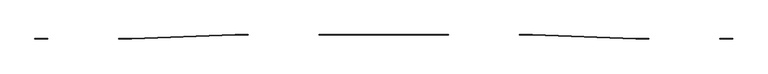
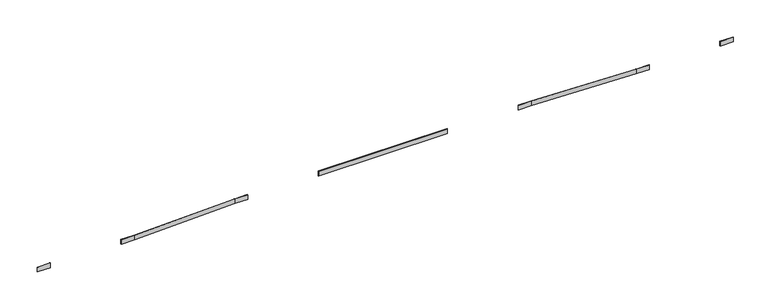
"""IFC4 building model written with IfcOpenShell, lengths in millimetres: proxy geometry, CapBWFillerFront.sat."""

from ifc_helpers import new_model, si_unit, frame, origin, place, context, project, spatial, polyline, outline, extrude, source, transform, mapped, element, save


def generic_models_699fb4ed(model_context):
    return source(origin(), model_context, "Body", "SweptSolid", [
        extrude(outline(polyline([(-3962.5190207, 6.35), (-2336.9190207, 67.31), (-2133.6, 67.31), (-2133.6, 60.96), (-2336.8, 60.96), (-3962.4, 0.0), (-4165.6, 0.0), (-4165.6, 6.35), (-3962.5190207, 6.35)])), frame((0.0, 0.0, -76.2), z_axis=(0.0, 0.0, 1.0), x_axis=(1.0, 0.0, 0.0)), (0.0, 0.0, 1.0), 76.2),
        extrude(outline(polyline([(2336.9190207, 67.31), (3962.5190207, 6.35), (4165.6, 6.35), (4165.6, 0.0), (3962.4, 0.0), (2336.8, 60.96), (2133.6, 60.96), (2133.6, 67.31), (2336.9190207, 67.31)])), frame((0.0, 0.0, -76.2), z_axis=(0.0, 0.0, 1.0), x_axis=(1.0, 0.0, 0.0)), (0.0, 0.0, 1.0), 76.2),
        extrude(outline(polyline([(5283.2, 6.35), (5486.4, 6.35), (5486.4, 0.0), (5283.2, 0.0), (5283.2, 6.35)])), frame((0.0, 0.0, -76.2), z_axis=(0.0, 0.0, 1.0), x_axis=(1.0, 0.0, 0.0)), (0.0, 0.0, 1.0), 76.2),
        extrude(outline(polyline([(-5486.4, 0.0), (-5486.4, 6.35), (-5283.2, 6.35), (-5283.2, 0.0), (-5486.4, 0.0)])), frame((0.0, 0.0, -76.2), z_axis=(0.0, 0.0, 1.0), x_axis=(1.0, 0.0, 0.0)), (0.0, 0.0, 1.0), 76.2),
        extrude(outline(polyline([(-1016.0, 60.96), (-1016.0, 67.31), (1016.0, 67.31), (1016.0, 60.96), (-1016.0, 60.96)])), frame((0.0, 0.0, -76.2), z_axis=(0.0, 0.0, 1.0), x_axis=(1.0, 0.0, 0.0)), (0.0, 0.0, 1.0), 76.2),
    ])


if __name__ == "__main__":
    model = new_model("IFC4")
    model_context = context("Model", 3, world=origin())
    ifc_project = project(units=[si_unit("LENGTHUNIT", "METRE", prefix="MILLI")], contexts=[model_context])
    site = spatial("IfcSite", under=ifc_project)
    building = spatial("IfcBuilding", under=site)
    placement = place(None, origin())
    generic_models_shape = generic_models_699fb4ed(model_context)
    element("IfcBuildingElementProxy", 1, Name="CapBWFillerFront.sat", ObjectType="CapBWFillerFront.sat", at=placement, inside=building, context=model_context, shape_type="MappedRepresentation", body=[
        mapped(generic_models_shape, transform((0.0, 0.0, 0.0), x_axis=(1.0, 0.0, 0.0), y_axis=(0.0, 1.0, 0.0), z_axis=(0.0, 0.0, 1.0))),
    ])
    save(model, "model.ifc")
